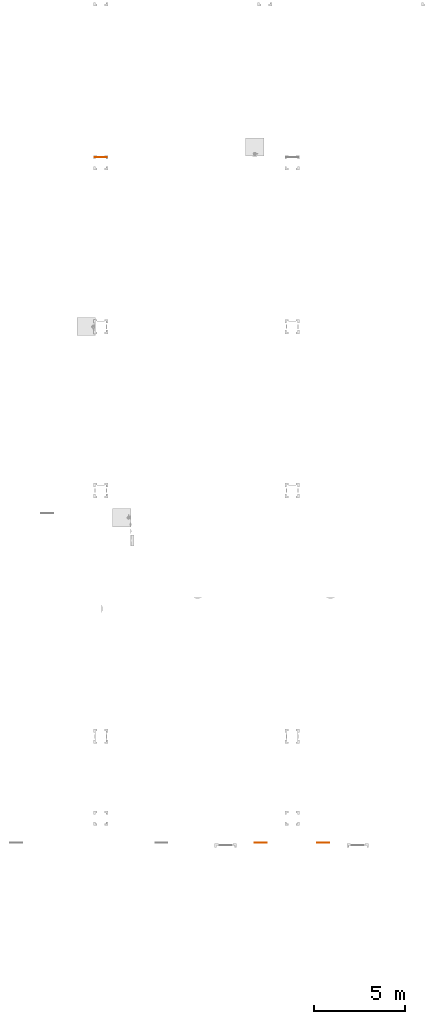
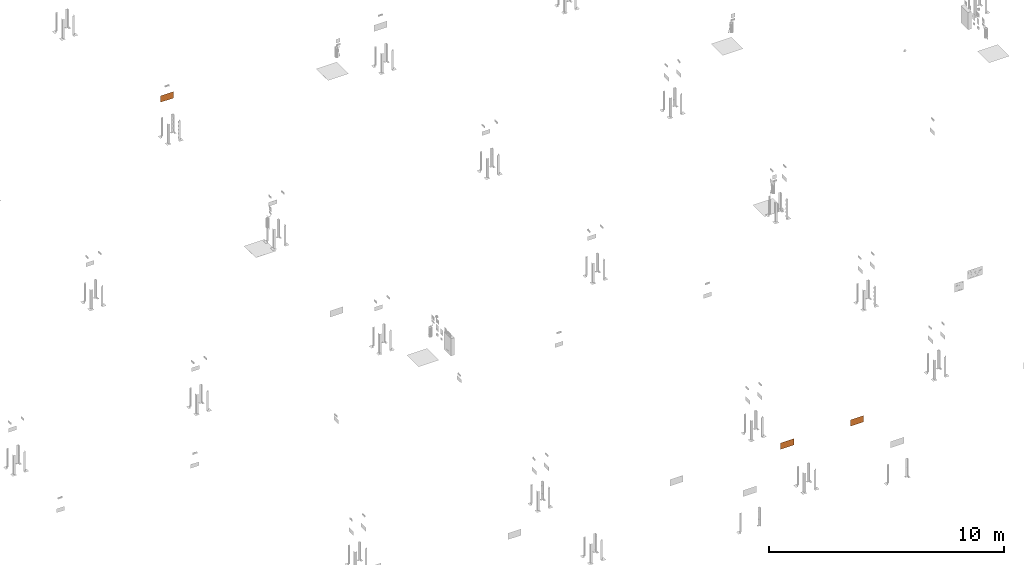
# One storey, part 78 of 119: 3 proxies.
"""IFC2X3 building model written with IfcOpenShell, lengths in metres."""

from ifc_helpers import new_model, entity, si_unit, converted_unit, derived_unit, direction, frame, frame_2d, origin, origin_2d_with_axis, place, context, subcontext, project, spatial, polyline, circle_curve, parameter, trimmed, segment, composite_curve, rectangle, outline, extrude, source, transform, mapped, material, material_list, type_object, type_shapes, element, save


model = new_model("IFC2X3")

# Units and contexts
model_context = context("Model", 3, precision=1e-05, world=origin(), true_north=direction((6.12303176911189e-17, 1.0)))
body_context = subcontext(model_context, "Body", "Model", "MODEL_VIEW")
ifc_project = project(units=[si_unit("LENGTHUNIT", "METRE"), si_unit("AREAUNIT", "SQUARE_METRE"), si_unit("VOLUMEUNIT", "CUBIC_METRE"), converted_unit("PLANEANGLEUNIT", "DEGREE", entity("IfcRatioMeasure", 0.0174532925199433), si_unit("PLANEANGLEUNIT", "RADIAN"), dimensions=[0, 0, 0, 0, 0, 0, 0]), si_unit("MASSUNIT", "GRAM", prefix="KILO"), derived_unit("MASSDENSITYUNIT", [(si_unit("MASSUNIT", "GRAM", prefix="KILO"), 1), (si_unit("LENGTHUNIT", "METRE"), -3)]), derived_unit("MOMENTOFINERTIAUNIT", [(si_unit("LENGTHUNIT", "METRE"), 4)]), si_unit("TIMEUNIT", "SECOND"), si_unit("FREQUENCYUNIT", "HERTZ"), si_unit("THERMODYNAMICTEMPERATUREUNIT", "DEGREE_CELSIUS"), derived_unit("THERMALTRANSMITTANCEUNIT", [(si_unit("MASSUNIT", "GRAM", prefix="KILO"), 1), (si_unit("THERMODYNAMICTEMPERATUREUNIT", "KELVIN"), -1), (si_unit("TIMEUNIT", "SECOND"), -3)]), derived_unit("VOLUMETRICFLOWRATEUNIT", [(si_unit("LENGTHUNIT", "METRE"), 3), (si_unit("TIMEUNIT", "SECOND"), -1)]), si_unit("ELECTRICCURRENTUNIT", "AMPERE"), si_unit("ELECTRICVOLTAGEUNIT", "VOLT"), si_unit("POWERUNIT", "WATT"), si_unit("FORCEUNIT", "NEWTON", prefix="KILO"), si_unit("ILLUMINANCEUNIT", "LUX"), si_unit("LUMINOUSFLUXUNIT", "LUMEN"), si_unit("LUMINOUSINTENSITYUNIT", "CANDELA"), derived_unit("USERDEFINED", [(si_unit("MASSUNIT", "GRAM", prefix="KILO"), -1), (si_unit("LENGTHUNIT", "METRE"), -2), (si_unit("TIMEUNIT", "SECOND"), 3), (si_unit("LUMINOUSFLUXUNIT", "LUMEN"), 1)]), derived_unit("LINEARVELOCITYUNIT", [(si_unit("LENGTHUNIT", "METRE"), 1), (si_unit("TIMEUNIT", "SECOND"), -1)]), si_unit("PRESSUREUNIT", "PASCAL"), derived_unit("USERDEFINED", [(si_unit("LENGTHUNIT", "METRE"), -2), (si_unit("MASSUNIT", "GRAM", prefix="KILO"), 1), (si_unit("TIMEUNIT", "SECOND"), -2)]), derived_unit("LINEARFORCEUNIT", [(si_unit("MASSUNIT", "GRAM", prefix="KILO"), 1), (si_unit("LENGTHUNIT", "METRE"), 1), (si_unit("TIMEUNIT", "SECOND"), -2), (si_unit("LENGTHUNIT", "METRE"), -1)]), derived_unit("PLANARFORCEUNIT", [(si_unit("MASSUNIT", "GRAM", prefix="KILO"), 1), (si_unit("LENGTHUNIT", "METRE"), 1), (si_unit("TIMEUNIT", "SECOND"), -2), (si_unit("LENGTHUNIT", "METRE"), -2)])], contexts=[model_context])

# Site, building, storey
site_placement = place(None, origin())
site = spatial("IfcSite", under=ifc_project, at=site_placement, Name="Default", CompositionType="ELEMENT")
building_placement = place(site_placement, origin())
building = spatial("IfcBuilding", under=site, at=building_placement, CompositionType="ELEMENT")
storey_placement = place(building_placement, origin())
storey = spatial("IfcBuildingStorey", under=building, at=storey_placement, Name="PAV. 01 - TÉRREO", CompositionType="ELEMENT", Elevation=0.0)

# Proxies
ifc_material_1 = material(Name="Plastico branco")
ifc_material_2 = material(Name="Plastico Verde")
ifc_material_list_1 = material_list([ifc_material_1, ifc_material_2])
building_element_proxy_type_1 = type_object("IfcBuildingElementProxyType", Name="Sinalização de orientação - S12 - Saída de emergência:Distância 20m", PredefinedType="NOTDEFINED", material=ifc_material_1)
shared_shape_1 = source(origin(), body_context, "Body", "SweptSolid", [
    extrude(outline(polyline([(0.0376954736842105, -0.0454956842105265), (0.0705927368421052, -0.0454956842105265), (0.0183030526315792, 0.105552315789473), (-0.0183529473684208, 0.105552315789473), (-0.0714076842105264, -0.0454956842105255), (-0.0368472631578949, -0.0454956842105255), (-0.027200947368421, -0.0145609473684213), (0.0272175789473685, -0.0145609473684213), (0.0376954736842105, -0.0454956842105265)]), holes=[polyline([(-0.0183529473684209, 0.0115506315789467), (0.000141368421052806, 0.0715241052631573), (0.0183030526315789, 0.0115506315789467), (-0.0183529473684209, 0.0115506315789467)])]), frame((0.227960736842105, -0.0011, 3.63618684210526), z_axis=(0.0, 1.0, 0.0), x_axis=(-1.0, 0.0, 0.0)), (0.0, 0.0, 1.0), 0.0011),
    extrude(outline(polyline([(0.00169642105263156, -0.0153010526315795), (0.0223528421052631, -0.0153010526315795), (0.00329305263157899, 0.0153010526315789), (-0.0273423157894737, 0.0153010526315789), (0.00169642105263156, -0.0153010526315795)])), frame((0.0069519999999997, -0.0011, 3.77250757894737), z_axis=(0.0, 1.0, 0.0), x_axis=(-1.0, 0.0, 0.0)), (0.0, 0.0, 1.0), 0.0011),
    extrude(rectangle(XDim=0.0011, YDim=0.030968, at=origin_2d_with_axis()), frame((-0.00367557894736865, -0.00055, 3.59069115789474), z_axis=(0.0, 0.0, 1.0), x_axis=(0.0, 1.0, 0.0)), (0.0, 0.0, 1.0), 0.151048),
    extrude(outline(polyline([(0.0376247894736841, -0.0454956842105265), (0.0704887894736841, -0.0454956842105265), (0.0182323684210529, 0.105552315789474), (-0.0184568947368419, 0.105552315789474), (-0.0707798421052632, -0.0454956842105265), (-0.0369512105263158, -0.0454956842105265), (-0.0273048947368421, -0.0145609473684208), (0.0271468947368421, -0.0145609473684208), (0.0376247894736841, -0.0454956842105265)]), holes=[polyline([(-0.018456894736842, 0.0115506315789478), (3.74210526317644e-05, 0.0715241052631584), (0.0182323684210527, 0.0115506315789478), (-0.018456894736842, 0.0115506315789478)])]), frame((-0.101049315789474, -0.0011, 3.63618684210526), z_axis=(0.0, 1.0, 0.0), x_axis=(-1.0, 0.0, 0.0)), (0.0, 0.0, 1.0), 0.0011),
    extrude(outline(polyline([(-0.0987312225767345, -0.0692916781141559), (-0.0390903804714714, -0.0692916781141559), (-0.0259090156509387, -0.0690015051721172), (-0.015711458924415, -0.0679295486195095), (-0.00762154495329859, -0.0657736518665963), (-0.000763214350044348, -0.062231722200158), (0.00552600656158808, -0.0571304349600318), (0.0112471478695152, -0.0506952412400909), (0.0162735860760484, -0.0432285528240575), (0.0204786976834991, -0.0350327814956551), (0.0237358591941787, -0.0264103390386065), (0.0259649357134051, -0.0176406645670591), (0.0272763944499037, -0.00890900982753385), (0.0278295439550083, -0.000376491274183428), (0.0277836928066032, 0.00779577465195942), (0.0272981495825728, 0.0154466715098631), (0.0265127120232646, 0.0224446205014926), (0.0253600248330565, 0.0289716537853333), (0.0236478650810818, 0.0353988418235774), (0.0211822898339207, 0.0420998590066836), (0.017769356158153, 0.0494483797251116), (0.0131642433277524, 0.0577443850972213), (0.00648808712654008, 0.0663694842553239), (-0.00356821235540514, 0.0740821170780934), (-0.0183219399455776, 0.0796288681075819), (-0.0390903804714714, 0.0817563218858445), (-0.0987312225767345, 0.0817563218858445), (-0.0987312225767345, -0.0692916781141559)]), holes=[polyline([(-0.0677299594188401, 0.0556447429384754), (-0.0390903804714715, 0.0556447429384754), (-0.0307359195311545, 0.0546713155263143), (-0.0238840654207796, 0.0520574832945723), (-0.0183755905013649, 0.0482629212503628), (-0.0140512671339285, 0.0437473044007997), (-0.0107521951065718, 0.0389334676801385), (-0.00832187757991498, 0.033973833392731), (-0.0066048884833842, 0.0289003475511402), (-0.00544580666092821, 0.0237444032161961), (-0.00468921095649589, 0.0185373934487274), (-0.00418569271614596, 0.0133093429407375), (-0.00388873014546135, 0.00806686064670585), (-0.00383818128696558, 0.00279689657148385), (-0.00407658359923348, -0.00251420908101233), (-0.00464647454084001, -0.00788011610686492), (-0.00559039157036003, -0.0133144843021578), (-0.00695529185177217, -0.0188075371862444), (-0.00881691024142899, -0.0241968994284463), (-0.0112625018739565, -0.0292591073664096), (-0.0143793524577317, -0.0337705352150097), (-0.0182547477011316, -0.037507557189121), (-0.0229507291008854, -0.0402659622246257), (-0.0282499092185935, -0.0420564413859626), (-0.0337610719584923, -0.0430233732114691), (-0.0390903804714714, -0.0433131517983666), (-0.0677299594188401, -0.0433131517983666), (-0.0677299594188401, 0.0556447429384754)])]), frame((0.133025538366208, -0.0011, 3.67244747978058), z_axis=(0.0, 1.0, 0.0), x_axis=(1.0, 0.0, 0.0)), (0.0, 0.0, 1.0), 0.0011),
    extrude(outline(polyline([(-0.0574831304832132, 0.0312104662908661), (-0.0278789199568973, 0.0312104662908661), (-0.0266149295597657, 0.036124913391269), (-0.0251060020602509, 0.040204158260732), (-0.0233574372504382, 0.043538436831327), (-0.0213745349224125, 0.0462179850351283), (-0.0191625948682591, 0.048333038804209), (-0.0167269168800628, 0.0499738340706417), (-0.0140728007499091, 0.0512306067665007), (-0.0112055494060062, 0.0521935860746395), (-0.00813940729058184, 0.0529337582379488), (-0.00491714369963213, 0.0534607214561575), (-0.00158720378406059, 0.0537718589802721), (0.00180196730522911, 0.0538645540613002), (0.00520192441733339, 0.0537361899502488), (0.00856422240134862, 0.0533841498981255), (0.0118404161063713, 0.0528058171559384), (0.0149820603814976, 0.0519985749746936), (0.0179380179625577, 0.0509495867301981), (0.0206451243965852, 0.0496003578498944), (0.0230368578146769, 0.0478796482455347), (0.0250466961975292, 0.0457162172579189), (0.0266081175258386, 0.043038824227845), (0.027654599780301, 0.039776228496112), (0.0281196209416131, 0.0358571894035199), (0.027936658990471, 0.0312104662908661), (0.0270808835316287, 0.0286066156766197), (0.0255323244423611, 0.0263499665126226), (0.0233445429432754, 0.0243963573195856), (0.020571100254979, 0.0227016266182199), (0.0172655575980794, 0.0212216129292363), (0.0134814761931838, 0.0199121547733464), (0.00927241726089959, 0.0187290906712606), (0.00469194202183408, 0.0176282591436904), (-0.0162655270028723, 0.0131619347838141), (-0.021854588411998, 0.0117970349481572), (-0.0274211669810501, 0.0102287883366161), (-0.0328768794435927, 0.00840313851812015), (-0.0381333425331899, 0.00626602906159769), (-0.0431021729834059, 0.00376340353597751), (-0.047694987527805, 0.000841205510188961), (-0.051823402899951, -0.00255462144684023), (-0.0553990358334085, -0.00647813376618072), (-0.0583335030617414, -0.0109833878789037), (-0.0605384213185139, -0.0161244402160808), (-0.0619254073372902, -0.0219553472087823), (-0.0624060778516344, -0.0285301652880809), (-0.0614580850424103, -0.0401353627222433), (-0.0587034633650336, -0.050021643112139), (-0.0542724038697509, -0.0582833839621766), (-0.048295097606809, -0.0650149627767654), (-0.0409017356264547, -0.0703107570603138), (-0.0322225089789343, -0.0742651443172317), (-0.0223876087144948, -0.0769725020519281), (-0.0115272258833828, -0.0785272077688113), (0.00022844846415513, -0.0790236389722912), (0.0105685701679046, -0.0784476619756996), (0.0204533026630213, -0.0766900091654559), (0.0296795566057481, -0.0737177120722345), (0.0380442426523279, -0.0694978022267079), (0.0453442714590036, -0.0639973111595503), (0.0513765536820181, -0.0571832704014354), (0.0559379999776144, -0.0490227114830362), (0.0588255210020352, -0.0394826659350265), (0.0598360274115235, -0.0285301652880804), (0.0296663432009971, -0.0285301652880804), (0.0292112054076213, -0.0336041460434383), (0.0279224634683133, -0.0379372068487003), (0.0259151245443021, -0.0415888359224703), (0.023304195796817, -0.0446185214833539), (0.0202046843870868, -0.047085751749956), (0.0167315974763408, -0.0490500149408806), (0.0129999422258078, -0.0505707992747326), (0.00912472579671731, -0.0517075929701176), (0.00521918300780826, -0.0525188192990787), (0.00135318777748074, -0.0530368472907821), (-0.00244824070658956, -0.0532670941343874), (-0.00616215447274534, -0.053213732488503), (-0.00976560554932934, -0.0528809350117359), (-0.0132356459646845, -0.0522728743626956), (-0.0165493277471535, -0.0513937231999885), (-0.0196837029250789, -0.0502476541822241), (-0.0226158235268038, -0.0488388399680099), (-0.0253148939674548, -0.0471644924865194), (-0.0277033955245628, -0.0451803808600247), (-0.029686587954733, -0.0428269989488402), (-0.0311697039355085, -0.0400448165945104), (-0.0320579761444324, -0.036774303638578), (-0.0322566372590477, -0.0329559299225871), (-0.0316709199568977, -0.0285301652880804), (-0.0303724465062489, -0.0255638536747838), (-0.0278577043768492, -0.0229636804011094), (-0.0243560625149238, -0.02069431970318), (-0.0200968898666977, -0.0187204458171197), (-0.0153095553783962, -0.0170067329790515), (-0.0102234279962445, -0.0155178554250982), (-0.00506787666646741, -0.014218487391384), (0.0142120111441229, -0.010006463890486), (0.0187157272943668, -0.00893032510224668), (0.0231174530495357, -0.0077357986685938), (0.0274294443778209, -0.00636831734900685), (0.031663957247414, -0.00477331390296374), (0.0358332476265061, -0.00289622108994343), (0.0399331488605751, -0.000678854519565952), (0.0438729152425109, 0.00195603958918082), (0.047533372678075, 0.00509197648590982), (0.0507953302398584, 0.00881247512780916), (0.0535395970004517, 0.0132010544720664), (0.0556469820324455, 0.0183412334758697), (0.0569982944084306, 0.024316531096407), (0.0574743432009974, 0.0312104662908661), (0.0568973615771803, 0.0401466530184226), (0.0551054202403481, 0.048505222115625), (0.0519995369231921, 0.0561595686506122), (0.0474807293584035, 0.0629830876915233), (0.0414500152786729, 0.0688491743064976), (0.0338084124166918, 0.0736312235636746), (0.024456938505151, 0.0772026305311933), (0.013296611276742, 0.0794367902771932), (0.0002284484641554, 0.0802070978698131), (-0.0142842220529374, 0.0789872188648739), (-0.0269292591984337, 0.075473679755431), (-0.0375736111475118, 0.0698867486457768), (-0.0460842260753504, 0.0624466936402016), (-0.0523280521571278, 0.0533737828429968), (-0.0561720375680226, 0.0428882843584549), (-0.0574831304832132, 0.0312104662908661)])), frame((-0.239532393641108, -0.0011, 3.66565669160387), z_axis=(0.0, 1.0, 0.0), x_axis=(-1.0, 0.0, 0.0)), (0.0, 0.0, 1.0), 0.0011),
    extrude(rectangle(XDim=0.001, YDim=0.632, at=origin_2d_with_axis()), frame((0.0, -0.0005, 3.5075), z_axis=(0.0, 0.0, 1.0), x_axis=(0.0, 1.0, 0.0)), (0.0, 0.0, 1.0), 0.316000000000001),
    extrude(outline(polyline([(-0.165500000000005, -0.323499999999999), (0.165500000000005, -0.323499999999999), (0.165500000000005, 0.323499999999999), (-0.165500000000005, 0.323499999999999), (-0.165500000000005, -0.323499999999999)]), holes=[polyline([(-0.157999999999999, -0.315999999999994), (-0.157999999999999, 0.316000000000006), (0.158000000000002, 0.316000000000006), (0.158000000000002, -0.315999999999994), (-0.157999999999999, -0.315999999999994)])]), frame((0.0, -0.001, 3.66550000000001), z_axis=(0.0, 1.0, 0.0), x_axis=(0.0, 0.0, -1.0)), (0.0, 0.0, 1.0), 0.001),
])
type_shapes(building_element_proxy_type_1, [shared_shape_1])
proxy_1_placement = place(storey_placement, frame((55.4493130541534, -5.41661806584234, 0.0), z_axis=(0.0, 0.0, 1.0), x_axis=(-1.0, 0.0, 0.0)))
element("IfcBuildingElementProxy", 1, at=proxy_1_placement, inside=storey, type_object=building_element_proxy_type_1, material=ifc_material_list_1, Name="Sinalização de orientação - S12 - Saída de emergência:Distância 20m", ObjectType="Sinalização de orientação - S12 - Saída de emergência:Distância 20m", context=body_context, shape_type="MappedRepresentation", body=[
    mapped(shared_shape_1, transform((0.0, 0.0, 0.0), scale=1.0)),
])
ifc_material_list_2 = material_list([ifc_material_1, ifc_material_2])
proxy_2_placement = place(storey_placement, frame((58.8763092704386, -5.41661806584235, 0.0), z_axis=(0.0, 0.0, 1.0), x_axis=(-1.0, 0.0, 0.0)))
element("IfcBuildingElementProxy", 2, at=proxy_2_placement, inside=storey, type_object=building_element_proxy_type_1, material=ifc_material_list_2, Name="Sinalização de orientação - S12 - Saída de emergência:Distância 20m", ObjectType="Sinalização de orientação - S12 - Saída de emergência:Distância 20m", context=body_context, shape_type="MappedRepresentation", body=[
    mapped(shared_shape_1, transform((0.0, 0.0, 0.0), scale=1.0)),
])
ifc_material_list_3 = material_list([ifc_material_1, ifc_material_2])
building_element_proxy_type_2 = type_object("IfcBuildingElementProxyType", Name="Sinalização de orientação - S02 - Indicação do sentido da saída de emergência esquerda:Distância 20m", PredefinedType="NOTDEFINED", material=ifc_material_1)
shared_shape_2 = source(origin(), body_context, "Body", "SweptSolid", [
    extrude(outline(polyline([(-0.0447808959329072, -0.0403053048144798), (-0.043171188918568, -0.0403053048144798), (-0.0413200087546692, -0.0389366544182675), (-0.0392890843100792, -0.0364788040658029), (-0.0371401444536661, -0.033211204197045), (-0.0349349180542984, -0.0294133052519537), (-0.0265856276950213, -0.0138527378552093), (-0.0227430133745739, -0.00709511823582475), (-0.0208230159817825, -0.00397540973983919), (-0.0188699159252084, -0.00102040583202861), (-0.0168582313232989, 0.00177591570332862), (-0.0147624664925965, 0.00441959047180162), (-0.0125318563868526, 0.00694116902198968), (-0.0100380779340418, 0.00944644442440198), (-0.00713797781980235, 0.0120555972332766), (-0.00368840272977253, 0.0148888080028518), (0.000453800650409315, 0.018066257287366), (0.0268119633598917, 0.0366220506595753), (0.00900823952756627, 0.0460096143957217), (0.00759831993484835, 0.0467239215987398), (0.00663979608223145, 0.0471861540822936), (0.00601886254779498, 0.047454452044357), (0.00562171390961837, 0.0475869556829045), (0.005334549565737, 0.047641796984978), (0.00505495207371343, 0.0476577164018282), (0.00471625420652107, 0.047612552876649), (0.00425878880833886, 0.0474722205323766), (0.00362288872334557, 0.0472026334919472), (0.00274888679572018, 0.046769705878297), (0.00157711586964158, 0.0461393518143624), (-0.0256767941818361, 0.0298988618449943), (-0.0282489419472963, 0.0288779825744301), (-0.0306367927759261, 0.0282861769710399), (-0.0328328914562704, 0.028086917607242), (-0.0348297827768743, 0.0282436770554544), (-0.0366200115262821, 0.0287199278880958), (-0.0381961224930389, 0.0294791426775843), (-0.0395506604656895, 0.0304847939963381), (-0.0406761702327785, 0.0317003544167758), (-0.041565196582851, 0.0330892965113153), (-0.0422102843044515, 0.0346150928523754), (-0.0426039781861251, 0.036241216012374), (-0.0427388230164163, 0.0379311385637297), (-0.0426073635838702, 0.0396483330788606), (-0.0422021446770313, 0.0413562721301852), (-0.0415157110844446, 0.0430184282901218), (-0.040540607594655, 0.0445982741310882), (-0.0392693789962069, 0.0460592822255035), (-0.0376945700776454, 0.0473649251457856), (-0.020544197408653, 0.0580635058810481), (-0.00936529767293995, 0.0647230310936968), (-0.00237080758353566, 0.0682051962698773), (0.00222633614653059, 0.0693716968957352), (0.00619530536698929, 0.069077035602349), (0.0105721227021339, 0.0678809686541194), (0.0154180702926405, 0.0659513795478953), (0.0207269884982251, 0.0634290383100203), (0.0636286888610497, 0.0407952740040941), (0.0681400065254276, 0.0382962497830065), (0.0719015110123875, 0.0357625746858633), (0.0750089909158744, 0.032796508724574), (0.0775582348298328, 0.0290003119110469), (0.0796450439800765, 0.0239762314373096), (0.0814169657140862, 0.0172739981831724), (0.0831911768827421, 0.00827118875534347), (0.0881539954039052, -0.0192667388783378), (0.114405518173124, -0.0331658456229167), (0.169612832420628, 0.0711053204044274), (0.00387253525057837, 0.158858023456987), (-0.0853121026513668, -0.00958679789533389), (-0.0933374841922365, -0.00533768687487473), (-0.141866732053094, -0.0260508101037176), (-0.104503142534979, -0.0458333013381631), (-0.122153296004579, -0.0791695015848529), (-0.150380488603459, -0.0881243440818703), (-0.0339389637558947, -0.149775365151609), (-0.00485925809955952, -0.141271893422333), (0.0203339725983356, -0.154610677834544), (-0.0128105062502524, -0.160962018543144), (0.0158595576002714, -0.176141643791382), (0.043587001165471, -0.166922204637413), (0.104490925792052, -0.0518917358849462), (0.0750538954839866, -0.0363119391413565), (0.0725734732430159, -0.034899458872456), (0.0706715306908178, -0.0335889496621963), (0.0692214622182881, -0.0322141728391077), (0.0680966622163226, -0.0306088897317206), (0.0671705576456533, -0.0286069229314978), (0.0663377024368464, -0.0260818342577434), (0.0655501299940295, -0.0230153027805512), (0.0647695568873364, -0.0194072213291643), (0.060951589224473, 0.000442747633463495), (0.0287102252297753, -0.0230602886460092), (0.0246142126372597, -0.146526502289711), (-0.000579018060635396, -0.133187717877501), (-0.00053001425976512, -0.0237630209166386), (-0.0206753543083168, -0.0530682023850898), (-0.0230063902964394, -0.0567384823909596), (-0.0251862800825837, -0.0599201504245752), (-0.027294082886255, -0.0625984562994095), (-0.0294088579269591, -0.0647586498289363), (-0.0316096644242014, -0.0663859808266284), (-0.0339755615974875, -0.0674656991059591), (-0.0365856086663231, -0.0679830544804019), (-0.0395188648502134, -0.0679232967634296), (-0.0428543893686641, -0.0672716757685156), (-0.0466712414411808, -0.0660134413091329), (-0.051048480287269, -0.0641338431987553), (-0.0560651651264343, -0.0616181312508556), (-0.118768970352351, -0.0284190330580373), (-0.0891409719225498, -0.0168184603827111), (-0.0447808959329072, -0.0403053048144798)]), holes=[composite_curve([segment(trimmed(circle_curve(frame_2d((0.0860212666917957, 0.0597350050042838), x_axis=(0.883770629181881, -0.467920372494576)), 0.0222863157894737), [parameter(180.0)], [parameter(0.0)], True, "PARAMETER"), False, "CONTINUOUS"), segment(trimmed(circle_curve(frame_2d((0.0860212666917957, 0.0597350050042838), x_axis=(0.883770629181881, -0.467920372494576)), 0.0222863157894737), [parameter(3.56222124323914e-13)], [parameter(180.0)], True, "PARAMETER"), False, "CONTINUOUS")], self_intersect=False)]), frame((0.18787689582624, -0.00110000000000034, 1.9685208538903), z_axis=(0.0, 1.0, 0.0), x_axis=(-0.883770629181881, 0.0, 0.467920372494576)), (0.0, 0.0, 1.0), 0.0011),
    extrude(outline(polyline([(-0.323500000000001, -0.165500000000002), (0.323500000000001, -0.165500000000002), (0.323500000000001, 0.165500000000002), (-0.323500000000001, 0.165500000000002), (-0.323500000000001, -0.165500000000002)]), holes=[polyline([(-0.316000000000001, -0.158000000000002), (-0.316000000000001, 0.157999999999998), (0.315999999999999, 0.157999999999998), (0.315999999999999, -0.158000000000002), (-0.316000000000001, -0.158000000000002)])]), frame((0.0, -0.0011, 1.9655), z_axis=(0.0, 1.0, 0.0), x_axis=(1.0, 0.0, 0.0)), (0.0, 0.0, 1.0), 0.0011),
    extrude(rectangle(XDim=0.632, YDim=0.001, at=origin_2d_with_axis()), frame((0.0, -0.0005, 1.8075)), (0.0, 0.0, 1.0), 0.316000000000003),
    extrude(outline(polyline([(-0.0567986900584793, -0.0957978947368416), (0.0276564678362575, -0.0957978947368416), (-0.0363085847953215, -0.0318328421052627), (0.141749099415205, -0.0318328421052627), (0.141749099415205, 0.0318328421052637), (-0.0363085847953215, 0.0318328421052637), (0.0276564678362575, 0.0957978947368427), (-0.0567986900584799, 0.0957978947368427), (-0.152596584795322, 0.0), (-0.0567986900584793, -0.0957978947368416)])), frame((-0.141749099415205, -0.0011, 1.9655), z_axis=(0.0, 1.0, 0.0), x_axis=(1.0, 0.0, 0.0)), (0.0, 0.0, 1.0), 0.0011),
])
type_shapes(building_element_proxy_type_2, [shared_shape_2])
proxy_3_placement = place(storey_placement, frame((46.6738245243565, 32.2286443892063, 0.0), z_axis=(0.0, 0.0, 1.0), x_axis=(-1.0, 0.0, 0.0)))
element("IfcBuildingElementProxy", 3, at=proxy_3_placement, inside=storey, type_object=building_element_proxy_type_2, material=ifc_material_list_3, Name="Sinalização de orientação - S02 - Indicação do sentido da saída de emergência esquerda:Distância 20m", ObjectType="Sinalização de orientação - S02 - Indicação do sentido da saída de emergência esquerda:Distância 20m", context=body_context, shape_type="MappedRepresentation", body=[
    mapped(shared_shape_2, transform((0.0, 0.0, 0.0), scale=1.0)),
])

save(model, "model.ifc")
